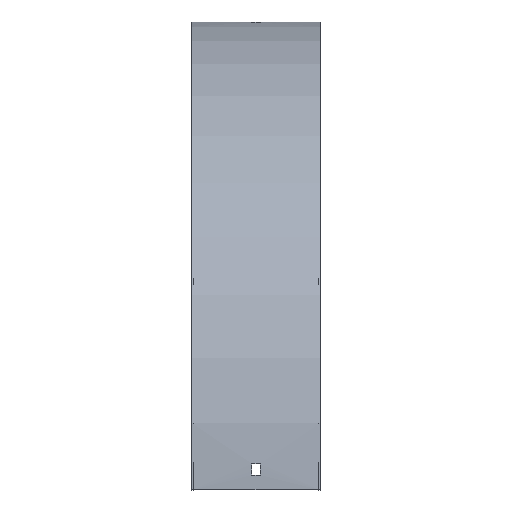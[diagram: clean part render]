
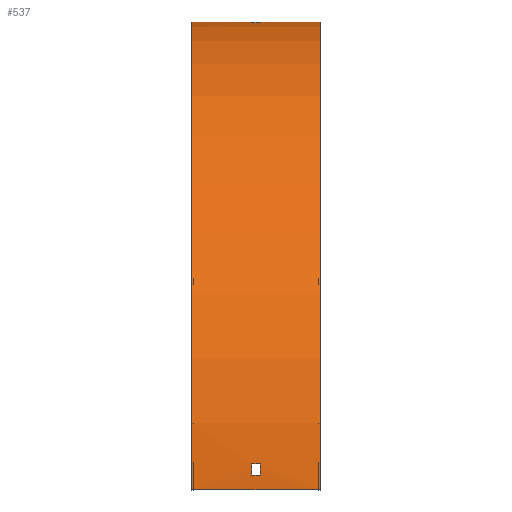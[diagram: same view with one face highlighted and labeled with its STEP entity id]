
A CAD part, top view. The second image highlights one B-rep face of the part: STEP entity #537.
In plain terms, the highlighted cylindrical face has radius 376.5 mm (diameter 753 mm), a partial arc.
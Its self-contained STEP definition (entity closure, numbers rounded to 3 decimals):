
#13 = LINE ( 'NONE', #156, #311 ) ;
#18 = EDGE_CURVE ( 'NONE', #20, #483, #225, .T. ) ;
#20 = VERTEX_POINT ( 'NONE', #599 ) ;
#53 = DIRECTION ( 'NONE',  ( 1., 0., 0. ) ) ;
#55 = ORIENTED_EDGE ( 'NONE', *, *, #322, .F. ) ;
#56 = CARTESIAN_POINT ( 'NONE',  ( -3.25, -376.5, 0. ) ) ;
#57 = LINE ( 'NONE', #240, #161 ) ;
#58 = CARTESIAN_POINT ( 'NONE',  ( -3.25, -376.5, 0. ) ) ;
#60 = VECTOR ( 'NONE', #200, 1000. ) ;
#62 = ORIENTED_EDGE ( 'NONE', *, *, #158, .T. ) ;
#65 = FACE_BOUND ( 'NONE', #133, .T. ) ;
#69 = CARTESIAN_POINT ( 'NONE',  ( -3.25, -355.5, 375.914 ) ) ;
#71 = AXIS2_PLACEMENT_3D ( 'NONE', #321, #593, #473 ) ;
#103 = CARTESIAN_POINT ( 'NONE',  ( 51.5, -364.5, 376.309 ) ) ;
#105 = DIRECTION ( 'NONE',  ( 0., 0., 1. ) ) ;
#114 = CARTESIAN_POINT ( 'NONE',  ( 51.5, -376.5, 376.5 ) ) ;
#118 = AXIS2_PLACEMENT_3D ( 'NONE', #345, #301, #586 ) ;
#133 = EDGE_LOOP ( 'NONE', ( #381, #267, #55, #155 ) ) ;
#142 = CARTESIAN_POINT ( 'NONE',  ( -51.5, -376.5, 376.5 ) ) ;
#146 = DIRECTION ( 'NONE',  ( -1., 0., 0. ) ) ;
#151 = VERTEX_POINT ( 'NONE', #142 ) ;
#154 = CARTESIAN_POINT ( 'NONE',  ( 51.5, -355.5, 375.914 ) ) ;
#155 = ORIENTED_EDGE ( 'NONE', *, *, #366, .F. ) ;
#156 = CARTESIAN_POINT ( 'NONE',  ( 51.5, -376.5, 376.5 ) ) ;
#158 = EDGE_CURVE ( 'NONE', #216, #204, #607, .T. ) ;
#160 = DIRECTION ( 'NONE',  ( -1., 0., 0. ) ) ;
#161 = VECTOR ( 'NONE', #600, 1000. ) ;
#164 = CARTESIAN_POINT ( 'NONE',  ( 51.5, -376.5, 0. ) ) ;
#171 = CIRCLE ( 'NONE', #272, 376.5 ) ;
#184 = DIRECTION ( 'NONE',  ( -1., 0., 0. ) ) ;
#198 = LINE ( 'NONE', #154, #359 ) ;
#200 = DIRECTION ( 'NONE',  ( 1., 0., 0. ) ) ;
#203 = DIRECTION ( 'NONE',  ( 1., 0., 0. ) ) ;
#204 = VERTEX_POINT ( 'NONE', #330 ) ;
#209 = ORIENTED_EDGE ( 'NONE', *, *, #506, .F. ) ;
#215 = EDGE_CURVE ( 'NONE', #352, #553, #57, .T. ) ;
#216 = VERTEX_POINT ( 'NONE', #556 ) ;
#222 = CIRCLE ( 'NONE', #71, 376.5 ) ;
#225 = LINE ( 'NONE', #555, #257 ) ;
#231 = DIRECTION ( 'NONE',  ( 0., 1., 0. ) ) ;
#232 = AXIS2_PLACEMENT_3D ( 'NONE', #385, #53, #512 ) ;
#235 = VECTOR ( 'NONE', #184, 1000. ) ;
#240 = CARTESIAN_POINT ( 'NONE',  ( 51.5, 0., 0. ) ) ;
#246 = DIRECTION ( 'NONE',  ( 1., 0., 0. ) ) ;
#254 = CIRCLE ( 'NONE', #456, 376.5 ) ;
#255 = FACE_OUTER_BOUND ( 'NONE', #534, .T. ) ;
#257 = VECTOR ( 'NONE', #603, 1000. ) ;
#267 = ORIENTED_EDGE ( 'NONE', *, *, #491, .F. ) ;
#272 = AXIS2_PLACEMENT_3D ( 'NONE', #435, #203, #295 ) ;
#295 = DIRECTION ( 'NONE',  ( 0., 0., -1. ) ) ;
#301 = DIRECTION ( 'NONE',  ( 1., 0., 0. ) ) ;
#303 = AXIS2_PLACEMENT_3D ( 'NONE', #56, #246, #231 ) ;
#311 = VECTOR ( 'NONE', #573, 1000. ) ;
#321 = CARTESIAN_POINT ( 'NONE',  ( 3.25, -376.5, 0. ) ) ;
#322 = EDGE_CURVE ( 'NONE', #356, #447, #222, .T. ) ;
#330 = CARTESIAN_POINT ( 'NONE',  ( -3.25, -0.586, 21. ) ) ;
#331 = LINE ( 'NONE', #103, #60 ) ;
#342 = EDGE_CURVE ( 'NONE', #204, #20, #254, .T. ) ;
#345 = CARTESIAN_POINT ( 'NONE',  ( 3.25, -376.5, 0. ) ) ;
#352 = VERTEX_POINT ( 'NONE', #468 ) ;
#356 = VERTEX_POINT ( 'NONE', #571 ) ;
#359 = VECTOR ( 'NONE', #532, 1000. ) ;
#366 = EDGE_CURVE ( 'NONE', #433, #356, #331, .T. ) ;
#376 = CARTESIAN_POINT ( 'NONE',  ( 3.25, -0.191, 12. ) ) ;
#377 = AXIS2_PLACEMENT_3D ( 'NONE', #164, #160, #431 ) ;
#381 = ORIENTED_EDGE ( 'NONE', *, *, #427, .F. ) ;
#385 = CARTESIAN_POINT ( 'NONE',  ( -51.5, -376.5, 0. ) ) ;
#386 = EDGE_CURVE ( 'NONE', #553, #151, #397, .T. ) ;
#388 = CYLINDRICAL_SURFACE ( 'NONE', #377, 376.5 ) ;
#389 = CARTESIAN_POINT ( 'NONE',  ( -51.5, 0., 0. ) ) ;
#392 = FACE_BOUND ( 'NONE', #524, .T. ) ;
#395 = ORIENTED_EDGE ( 'NONE', *, *, #342, .T. ) ;
#397 = CIRCLE ( 'NONE', #232, 376.5 ) ;
#412 = CARTESIAN_POINT ( 'NONE',  ( 51.5, -0.586, 21. ) ) ;
#422 = CARTESIAN_POINT ( 'NONE',  ( -3.25, -364.5, 376.309 ) ) ;
#427 = EDGE_CURVE ( 'NONE', #563, #433, #568, .T. ) ;
#428 = EDGE_CURVE ( 'NONE', #541, #151, #13, .T. ) ;
#430 = ORIENTED_EDGE ( 'NONE', *, *, #561, .T. ) ;
#431 = DIRECTION ( 'NONE',  ( 0., 0., 1. ) ) ;
#433 = VERTEX_POINT ( 'NONE', #422 ) ;
#435 = CARTESIAN_POINT ( 'NONE',  ( 51.5, -376.5, 0. ) ) ;
#447 = VERTEX_POINT ( 'NONE', #507 ) ;
#456 = AXIS2_PLACEMENT_3D ( 'NONE', #58, #146, #105 ) ;
#468 = CARTESIAN_POINT ( 'NONE',  ( 51.5, 0., 0. ) ) ;
#473 = DIRECTION ( 'NONE',  ( 0., 0., 1. ) ) ;
#480 = ORIENTED_EDGE ( 'NONE', *, *, #18, .T. ) ;
#483 = VERTEX_POINT ( 'NONE', #376 ) ;
#491 = EDGE_CURVE ( 'NONE', #447, #563, #198, .T. ) ;
#506 = EDGE_CURVE ( 'NONE', #352, #541, #171, .T. ) ;
#507 = CARTESIAN_POINT ( 'NONE',  ( 3.25, -355.5, 375.914 ) ) ;
#512 = DIRECTION ( 'NONE',  ( 0., 0., -1. ) ) ;
#524 = EDGE_LOOP ( 'NONE', ( #62, #395, #480, #430 ) ) ;
#532 = DIRECTION ( 'NONE',  ( -1., 0., 0. ) ) ;
#533 = CIRCLE ( 'NONE', #118, 376.5 ) ;
#534 = EDGE_LOOP ( 'NONE', ( #554, #574, #209, #578 ) ) ;
#537 = ADVANCED_FACE ( 'NONE', ( #255, #392, #65 ), #388, .T. ) ;
#541 = VERTEX_POINT ( 'NONE', #114 ) ;
#553 = VERTEX_POINT ( 'NONE', #389 ) ;
#554 = ORIENTED_EDGE ( 'NONE', *, *, #386, .T. ) ;
#555 = CARTESIAN_POINT ( 'NONE',  ( 51.5, -0.191, 12. ) ) ;
#556 = CARTESIAN_POINT ( 'NONE',  ( 3.25, -0.586, 21. ) ) ;
#561 = EDGE_CURVE ( 'NONE', #483, #216, #533, .T. ) ;
#563 = VERTEX_POINT ( 'NONE', #69 ) ;
#568 = CIRCLE ( 'NONE', #303, 376.5 ) ;
#571 = CARTESIAN_POINT ( 'NONE',  ( 3.25, -364.5, 376.309 ) ) ;
#573 = DIRECTION ( 'NONE',  ( -1., 0., 0. ) ) ;
#574 = ORIENTED_EDGE ( 'NONE', *, *, #428, .F. ) ;
#578 = ORIENTED_EDGE ( 'NONE', *, *, #215, .T. ) ;
#586 = DIRECTION ( 'NONE',  ( 0., 0., -1. ) ) ;
#593 = DIRECTION ( 'NONE',  ( -1., 0., 0. ) ) ;
#599 = CARTESIAN_POINT ( 'NONE',  ( -3.25, -0.191, 12. ) ) ;
#600 = DIRECTION ( 'NONE',  ( -1., 0., 0. ) ) ;
#603 = DIRECTION ( 'NONE',  ( 1., 0., 0. ) ) ;
#607 = LINE ( 'NONE', #412, #235 ) ;
